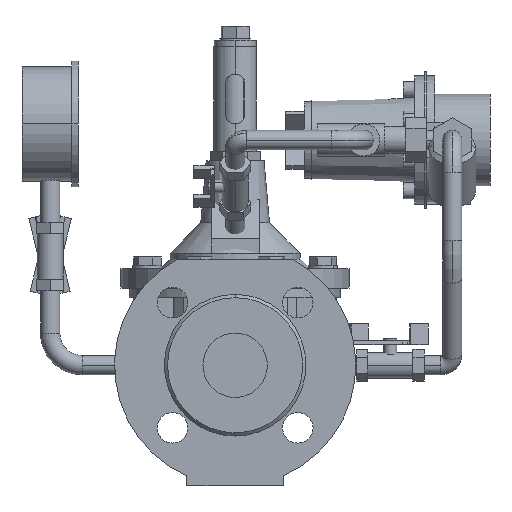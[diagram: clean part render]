
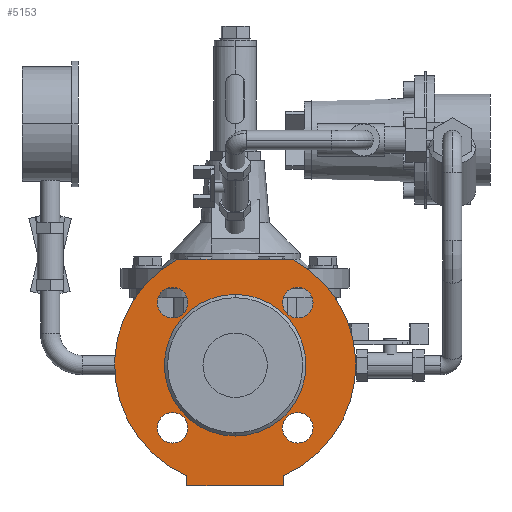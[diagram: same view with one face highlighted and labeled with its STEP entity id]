
A CAD part, left-side view. The second image highlights one B-rep face of the part: STEP entity #5153.
In plain terms, the highlighted planar face has unit normal (-1, 0, 0).
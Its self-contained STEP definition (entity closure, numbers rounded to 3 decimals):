
#5153=ADVANCED_FACE('',(#9458,#9459,#9460,#9461,#9462,#9463),#9464,.F.);
#9458=FACE_BOUND('',#14263,.T.);
#9459=FACE_BOUND('',#14264,.T.);
#9460=FACE_BOUND('',#14265,.T.);
#9461=FACE_BOUND('',#14266,.T.);
#9462=FACE_OUTER_BOUND('',#14267,.T.);
#9463=FACE_BOUND('',#14268,.T.);
#9464=PLANE('',#14269);
#14263=EDGE_LOOP('',(#23081,#23082));
#14264=EDGE_LOOP('',(#23083,#23084));
#14265=EDGE_LOOP('',(#23085,#23086));
#14266=EDGE_LOOP('',(#23087,#23088));
#14267=EDGE_LOOP('',(#23089,#23090,#23091,#23092,#23093,#23094));
#14268=EDGE_LOOP('',(#23095,#23096));
#14269=AXIS2_PLACEMENT_3D('',#23097,#23098,#23099);
#23081=ORIENTED_EDGE('',*,*,#28211,.T.);
#23082=ORIENTED_EDGE('',*,*,#26819,.T.);
#23083=ORIENTED_EDGE('',*,*,#26539,.T.);
#23084=ORIENTED_EDGE('',*,*,#27614,.T.);
#23085=ORIENTED_EDGE('',*,*,#27008,.T.);
#23086=ORIENTED_EDGE('',*,*,#29020,.T.);
#23087=ORIENTED_EDGE('',*,*,#27927,.T.);
#23088=ORIENTED_EDGE('',*,*,#28385,.T.);
#23089=ORIENTED_EDGE('',*,*,#29077,.T.);
#23090=ORIENTED_EDGE('',*,*,#25773,.F.);
#23091=ORIENTED_EDGE('',*,*,#27648,.F.);
#23092=ORIENTED_EDGE('',*,*,#28731,.F.);
#23093=ORIENTED_EDGE('',*,*,#29078,.F.);
#23094=ORIENTED_EDGE('',*,*,#29079,.F.);
#23095=ORIENTED_EDGE('',*,*,#28453,.T.);
#23096=ORIENTED_EDGE('',*,*,#28568,.T.);
#23097=CARTESIAN_POINT('',(2.0,0.0,0.));
#23098=DIRECTION('',(1.0,0.0,0.));
#23099=DIRECTION('',(0.,0.0,-1.0));
#25773=EDGE_CURVE('',#30007,#30005,#30009,.T.);
#26539=EDGE_CURVE('',#31300,#31302,#31304,.T.);
#26819=EDGE_CURVE('',#31761,#31759,#31762,.T.);
#27008=EDGE_CURVE('',#32063,#32065,#32067,.T.);
#27614=EDGE_CURVE('',#31302,#31300,#32972,.T.);
#27648=EDGE_CURVE('',#33017,#30007,#33019,.T.);
#27927=EDGE_CURVE('',#33424,#33426,#33428,.T.);
#28211=EDGE_CURVE('',#31759,#31761,#33801,.T.);
#28385=EDGE_CURVE('',#33426,#33424,#34012,.T.);
#28453=EDGE_CURVE('',#34102,#34104,#34106,.T.);
#28568=EDGE_CURVE('',#34104,#34102,#34253,.T.);
#28731=EDGE_CURVE('',#34442,#33017,#34443,.T.);
#29020=EDGE_CURVE('',#32065,#32063,#34780,.T.);
#29077=EDGE_CURVE('',#34847,#30005,#34848,.T.);
#29078=EDGE_CURVE('',#34849,#34442,#34850,.T.);
#29079=EDGE_CURVE('',#34847,#34849,#34851,.T.);
#30005=VERTEX_POINT('',#36093);
#30007=VERTEX_POINT('',#36096);
#30009=CIRCLE('',#36099,75.0);
#31300=VERTEX_POINT('',#37936);
#31302=VERTEX_POINT('',#37939);
#31304=CIRCLE('',#37942,9.5);
#31759=VERTEX_POINT('',#54666);
#31761=VERTEX_POINT('',#54669);
#31762=CIRCLE('',#54670,9.5);
#32063=VERTEX_POINT('',#55225);
#32065=VERTEX_POINT('',#55228);
#32067=CIRCLE('',#55231,9.5);
#32972=CIRCLE('',#56580,9.5);
#33017=VERTEX_POINT('',#56702);
#33019=LINE('',#56705,#56706);
#33424=VERTEX_POINT('',#57240);
#33426=VERTEX_POINT('',#57243);
#33428=CIRCLE('',#57246,9.5);
#33801=CIRCLE('',#57810,9.5);
#34012=CIRCLE('',#58100,9.5);
#34102=VERTEX_POINT('',#58223);
#34104=VERTEX_POINT('',#58226);
#34106=CIRCLE('',#58229,20.0);
#34253=CIRCLE('',#58433,20.0);
#34442=VERTEX_POINT('',#58759);
#34443=LINE('',#58760,#58761);
#34780=CIRCLE('',#59366,9.5);
#34847=VERTEX_POINT('',#59495);
#34848=LINE('',#59496,#59497);
#34849=VERTEX_POINT('',#59498);
#34850=LINE('',#59499,#59500);
#34851=CIRCLE('',#59501,75.0);
#36093=CARTESIAN_POINT('',(2.0,35.623,66.0));
#36096=CARTESIAN_POINT('',(2.0,30.0,-68.739));
#36099=AXIS2_PLACEMENT_3D('',#60461,#60462,#60463);
#37936=CARTESIAN_POINT('',(2.0,38.891,-29.391));
#37939=CARTESIAN_POINT('',(2.0,38.891,-48.391));
#37942=AXIS2_PLACEMENT_3D('',#61403,#61404,#61405);
#54666=CARTESIAN_POINT('',(2.0,38.891,48.391));
#54669=CARTESIAN_POINT('',(2.0,38.891,29.391));
#54670=AXIS2_PLACEMENT_3D('',#61769,#61770,#61771);
#55225=CARTESIAN_POINT('',(2.0,-38.891,48.391));
#55228=CARTESIAN_POINT('',(2.0,-38.891,29.391));
#55231=AXIS2_PLACEMENT_3D('',#61974,#61975,#61976);
#56580=AXIS2_PLACEMENT_3D('',#62680,#62681,#62682);
#56702=CARTESIAN_POINT('',(2.0,30.0,-75.0));
#56705=CARTESIAN_POINT('',(2.0,30.0,-75.0));
#56706=VECTOR('',#62716,1.0);
#57240=CARTESIAN_POINT('',(2.0,-38.891,-29.391));
#57243=CARTESIAN_POINT('',(2.0,-38.891,-48.391));
#57246=AXIS2_PLACEMENT_3D('',#63046,#63047,#63048);
#57810=AXIS2_PLACEMENT_3D('',#63317,#63318,#63319);
#58100=AXIS2_PLACEMENT_3D('',#63487,#63488,#63489);
#58223=CARTESIAN_POINT('',(2.0,0.0,-20.0));
#58226=CARTESIAN_POINT('',(2.0,0.,20.0));
#58229=AXIS2_PLACEMENT_3D('',#63546,#63547,#63548);
#58433=AXIS2_PLACEMENT_3D('',#63648,#63649,#63650);
#58759=CARTESIAN_POINT('',(2.0,-30.0,-75.0));
#58760=CARTESIAN_POINT('',(2.0,-30.0,-75.0));
#58761=VECTOR('',#63776,1.0);
#59366=AXIS2_PLACEMENT_3D('',#63992,#63993,#63994);
#59495=CARTESIAN_POINT('',(2.0,-35.623,66.0));
#59496=CARTESIAN_POINT('',(2.0,0.0,66.0));
#59497=VECTOR('',#64025,1.0);
#59498=CARTESIAN_POINT('',(2.0,-30.0,-68.739));
#59499=CARTESIAN_POINT('',(2.0,-30.0,-65.0));
#59500=VECTOR('',#64026,1.0);
#59501=AXIS2_PLACEMENT_3D('',#64027,#64028,#64029);
#60461=CARTESIAN_POINT('',(2.0,0.0,0.));
#60462=DIRECTION('',(1.0,0.0,0.));
#60463=DIRECTION('',(0.,0.0,-1.0));
#61403=CARTESIAN_POINT('',(2.0,38.891,-38.891));
#61404=DIRECTION('',(1.0,0.0,0.));
#61405=DIRECTION('',(0.,0.0,1.0));
#61769=CARTESIAN_POINT('',(2.0,38.891,38.891));
#61770=DIRECTION('',(1.0,0.0,0.));
#61771=DIRECTION('',(0.,0.0,1.0));
#61974=CARTESIAN_POINT('',(2.0,-38.891,38.891));
#61975=DIRECTION('',(1.0,0.0,0.));
#61976=DIRECTION('',(0.,0.0,1.0));
#62680=CARTESIAN_POINT('',(2.0,38.891,-38.891));
#62681=DIRECTION('',(1.0,0.0,0.));
#62682=DIRECTION('',(0.,0.0,1.0));
#62716=DIRECTION('',(0.0,0.0,1.0));
#63046=CARTESIAN_POINT('',(2.0,-38.891,-38.891));
#63047=DIRECTION('',(1.0,0.0,0.));
#63048=DIRECTION('',(0.,0.0,1.0));
#63317=CARTESIAN_POINT('',(2.0,38.891,38.891));
#63318=DIRECTION('',(1.0,0.0,0.));
#63319=DIRECTION('',(0.,0.0,1.0));
#63487=CARTESIAN_POINT('',(2.0,-38.891,-38.891));
#63488=DIRECTION('',(1.0,0.0,0.));
#63489=DIRECTION('',(0.,0.0,1.0));
#63546=CARTESIAN_POINT('',(2.0,0.0,0.));
#63547=DIRECTION('',(1.0,0.0,0.));
#63548=DIRECTION('',(0.,0.0,-1.0));
#63648=CARTESIAN_POINT('',(2.0,0.0,0.));
#63649=DIRECTION('',(1.0,0.0,0.));
#63650=DIRECTION('',(0.,0.0,-1.0));
#63776=DIRECTION('',(0.0,1.0,0.0));
#63992=CARTESIAN_POINT('',(2.0,-38.891,38.891));
#63993=DIRECTION('',(1.0,0.0,0.));
#63994=DIRECTION('',(0.,0.0,1.0));
#64025=DIRECTION('',(0.0,1.0,0.0));
#64026=DIRECTION('',(0.0,0.0,-1.0));
#64027=CARTESIAN_POINT('',(2.0,0.0,0.));
#64028=DIRECTION('',(1.0,0.0,0.));
#64029=DIRECTION('',(0.,0.0,-1.0));
